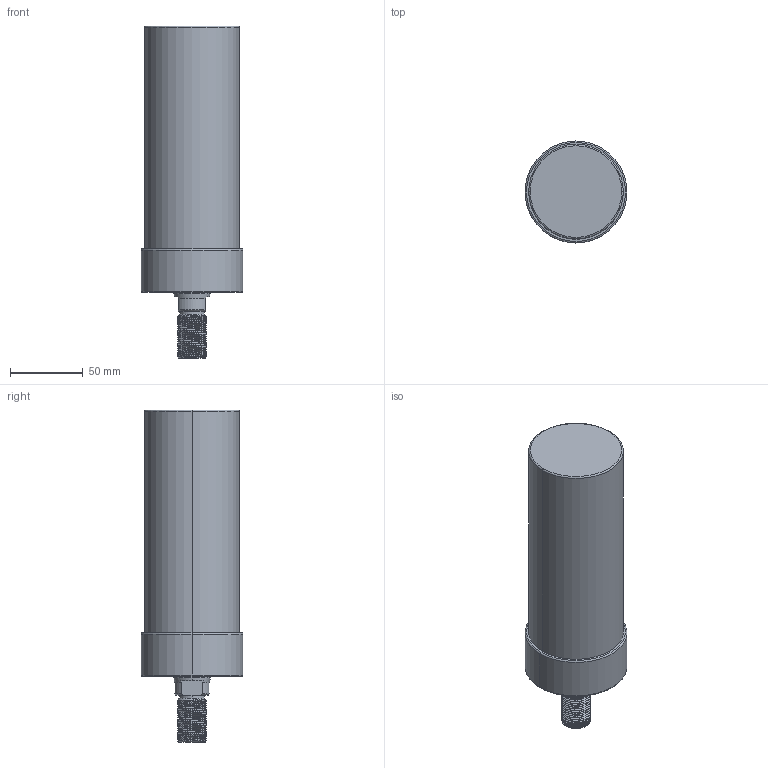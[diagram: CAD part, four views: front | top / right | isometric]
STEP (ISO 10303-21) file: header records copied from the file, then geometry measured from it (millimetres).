
FILE_DESCRIPTION (( 'STEP AP203' ), '1' );
FILE_NAME ('CLLU-065GT-120.STEP', '2020-01-16T02:16:23', ( '' ), ( '' ), 'SwSTEP 2.0', 'SolidWorks 2015', '' );
FILE_SCHEMA (( 'CONFIG_CONTROL_DESIGN' ));
Length unit declared in the file: millimetre
Products named in the file (1): CLLU-065GT-120
Bounding box: 70 x 70 x 228 mm (x, y, z)
Volume: 635905.4 mm3; surface area: 50671.4 mm2
Topology: 1 solids, 1 shells, 105 faces, 267 edges, 165 vertices
Faces by surface type: cylinder 60, cone 26, plane 11, torus 6, bspline 2
Entity records: 5367 total; most frequent: CARTESIAN_POINT 3009, ORIENTED_EDGE 518, DIRECTION 448, EDGE_CURVE 259, AXIS2_PLACEMENT_3D 180, VERTEX_POINT 165, EDGE_LOOP 114, FACE_OUTER_BOUND 105
